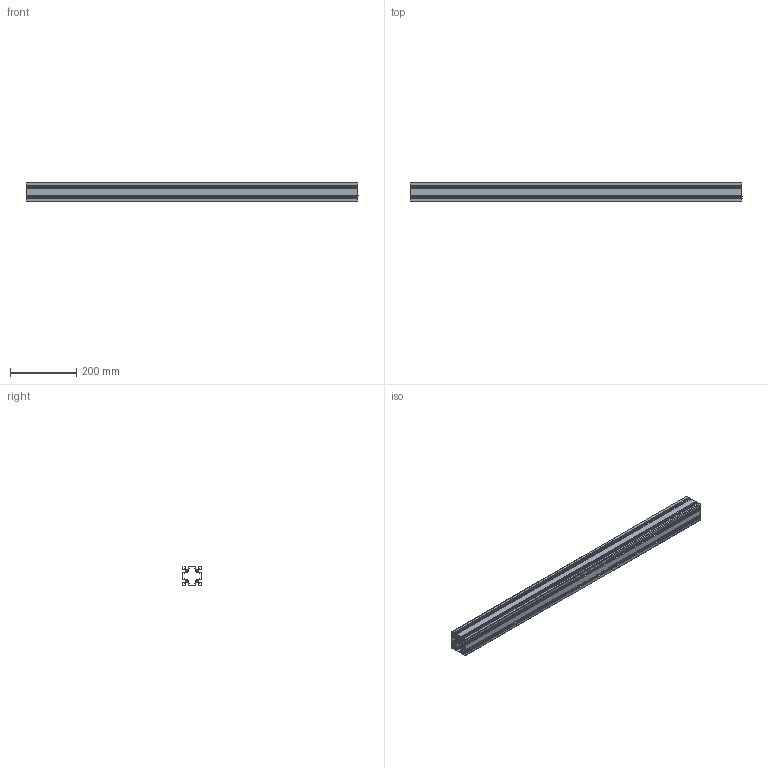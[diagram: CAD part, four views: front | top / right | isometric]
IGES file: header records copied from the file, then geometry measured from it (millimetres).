
Start section: SolidWorks IGES file using analytic representation for surfaces
Bounding box: 1000 x 60 x 60 mm (x, y, z)
Surface area: 863315.7 mm2 (no closed solid volume)
Topology: 0 solids, 0 shells, 419 faces, 4028 edges, 4028 vertices
Faces by surface type: revolution 237, bspline 182
